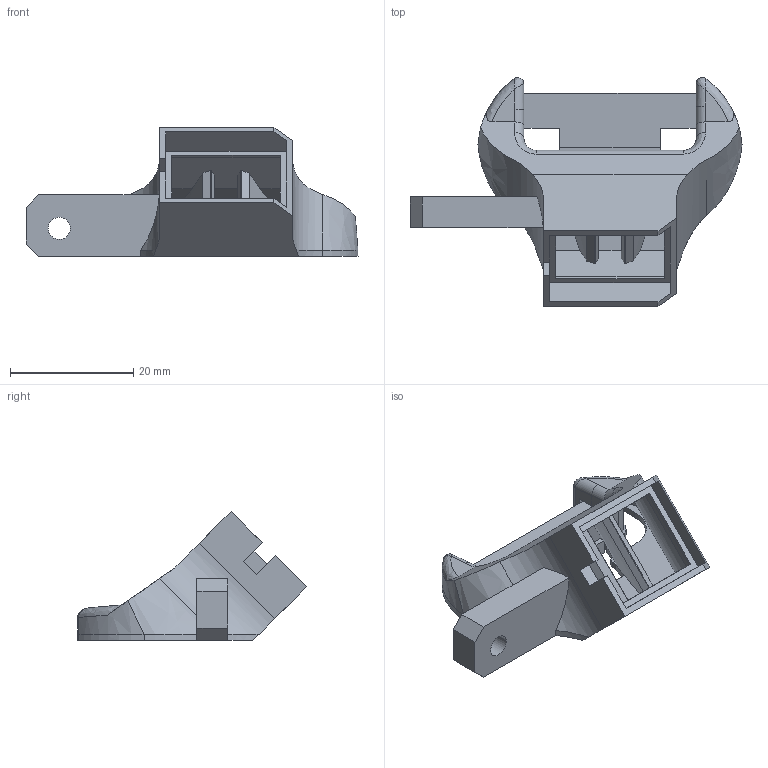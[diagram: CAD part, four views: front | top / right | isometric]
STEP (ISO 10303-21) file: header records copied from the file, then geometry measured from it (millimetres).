
FILE_DESCRIPTION(('CATIA V5 STEP Exchange'),'2;1');
FILE_NAME('D:\_이전 노트북\Cremaker모델링\Cremaker_profile-Metal(5차)-(Final)\Metal-Cooling duct.stp','2020-10-23T05:46:42+00:00',('none'),('none'),'CATIA Version 5 Release 20 GA (IN-10)','CATIA V5 STEP AP203','none');
FILE_SCHEMA(('CONFIG_CONTROL_DESIGN'));
Length unit declared in the file: millimetre
Products named in the file (1): Cooling Fan Duct-Metal
Bounding box: 53.95 x 37.18 x 20.93 mm (x, y, z)
Volume: 4290.2 mm3; surface area: 6584.9 mm2
Topology: 2 solids, 2 shells, 168 faces, 487 edges, 319 vertices
Faces by surface type: plane 103, cylinder 31, extrusion 26, bspline 8
Entity records: 6631 total; most frequent: CARTESIAN_POINT 2592, ORIENTED_EDGE 958, DIRECTION 586, EDGE_CURVE 479, VECTOR 328, VERTEX_POINT 310, LINE 302, EDGE_LOOP 171
